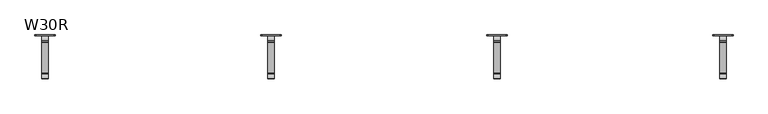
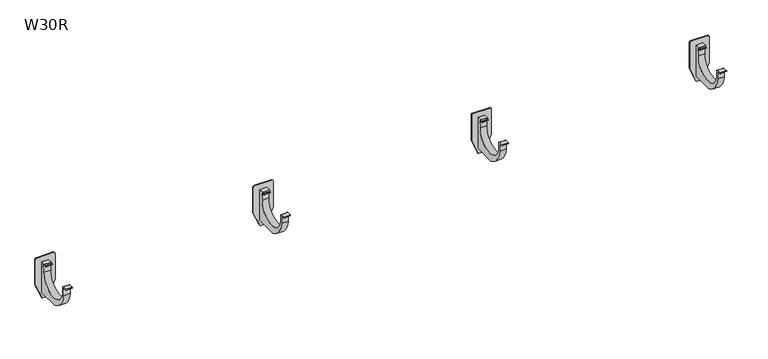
"""IFC4 building model written with IfcOpenShell, lengths in millimetres: proxy geometry, W30R Profil okapowy prosty z rynną : W30R."""

from ifc_helpers import new_model, si_unit, frame, origin, place, context, project, spatial, polyline, circle_curve, source, transform, mapped, element, save
from ifc_brep_helpers import plane_surface, cylinder_surface, revolved_surface, advanced_brep


def w30r_a8886554(model_context):
    return source(origin(), model_context, "Body", "AdvancedBrep", [
        advanced_brep(
        [(4806.4889281, -43.253125, -67.3579557), (4806.4889281, 31.746875, -67.3579557), (4806.4889281, 33.746875, -48.4650699), (4806.4889281, 28.3326614, -49.0508489), (4806.4889281, 26.9184479, -50.4650625), (4806.4889281, 25.5042343, -49.0508489), (4806.4889281, 26.9184479, -47.6366354), (4806.4889281, 29.746875, -46.4650625), (4806.4889281, 39.746875, -46.4650625), (4806.4889281, 39.746875, -121.4650625), (4806.4889281, -11.253125, -121.4654849), (4806.4889281, -45.753125, -76.6748546), (4806.4889281, -45.753125, -62.0548341), (4806.4889281, -45.753125, -58.4654849), (4806.4889281, -54.253125, -58.4654849), (4806.4889281, -54.253125, -56.4654849), (4806.4889281, -44.253125, -56.4654849), (4806.4889281, -43.253125, -57.4654849), (4821.4889281, -43.253125, -67.3579557), (4821.4889281, -43.253125, -57.4654849), (4821.4889281, -44.253125, -56.4654849), (4821.4889281, -54.253125, -56.4654849), (4821.4889281, -54.253125, -58.4654849), (4821.4889281, -45.753125, -58.4654849), (4821.4889281, -45.753125, -62.0548341), (4821.4889281, -45.753125, -76.6748546), (4821.4889281, -11.253125, -121.4654849), (4821.4889281, 39.746875, -121.4650625), (4821.4889281, 39.746875, -46.4650625), (4821.4889281, 29.746875, -46.4650625), (4821.4889281, 26.9184479, -47.6366354), (4821.4889281, 25.5042343, -49.0508489), (4821.4889281, 26.9184479, -50.4650625), (4821.4889281, 28.3326614, -49.0508489), (4821.4889281, 33.746875, -48.4650699), (4821.4889281, 31.746875, -67.3579557), (4833.4889281, 39.746875, -33.4650625), (4794.4889281, 39.746875, -33.4650625), (4791.4889281, 39.746875, -36.4650625), (4791.4889281, 39.746875, -98.4650625), (4805.7196973, 39.746875, -132.6189087), (4808.4889281, 39.746875, -134.4650625), (4819.4889281, 39.746875, -134.4650625), (4822.2581588, 39.746875, -132.6189087), (4836.4889281, 39.746875, -98.4650625), (4836.4889281, 39.746875, -36.4650625), (4833.4889281, 41.746875, -33.4650625), (4836.4889281, 41.746875, -36.4650625), (4836.4889281, 41.746875, -98.4650625), (4822.2581588, 41.746875, -132.6189087), (4819.4889281, 41.746875, -134.4650625), (4808.4889281, 41.746875, -134.4650625), (4805.7196973, 41.746875, -132.6189087), (4791.4889281, 41.746875, -98.4650625), (4791.4889281, 41.746875, -36.4650625), (4794.4889281, 41.746875, -33.4650625)],
        [
            (0, 1, circle_curve(frame((4806.4889281, -5.753125, -67.3579557), z_axis=(1.0, 0.0, 0.0), x_axis=(0.0, -1.0, 0.0)), 37.5)),
            (1, 2),
            (2, 3, circle_curve(frame((4806.4889281, 32.9075381, -66.0213045), z_axis=(1.0, 0.0, 0.0), x_axis=(0.0, -1.0, 0.0)), 17.5762868)),
            (3, 4),
            (4, 5, circle_curve(frame((4806.4889281, 26.2113411, -49.7579557), z_axis=(-1.0, 0.0, 0.0), x_axis=(0.0, -1.0, 0.0)), 1.0)),
            (5, 6),
            (6, 7, circle_curve(frame((4806.4889281, 29.746875, -50.4650625), z_axis=(-1.0, 0.0, 0.0), x_axis=(0.0, -1.0, 0.0)), 4.0)),
            (7, 8),
            (8, 9),
            (9, 10),
            (10, 11, circle_curve(frame((4806.4889281, 6.9272146, -71.7799373), z_axis=(-1.0, 0.0, 0.0), x_axis=(0.0, -1.0, 0.0)), 52.9072622)),
            (11, 12),
            (12, 13),
            (13, 14),
            (14, 15, circle_curve(frame((4806.4889281, -54.253125, -57.4654849), z_axis=(-1.0, 0.0, 0.0), x_axis=(0.0, -1.0, 0.0)), 1.0)),
            (15, 16),
            (16, 17, circle_curve(frame((4806.4889281, -44.253125, -57.4654849), z_axis=(-1.0, 0.0, 0.0), x_axis=(0.0, -1.0, 0.0)), 1.0)),
            (17, 0),
            (18, 19),
            (19, 20, circle_curve(frame((4821.4889281, -44.253125, -57.4654849), z_axis=(1.0, 0.0, 0.0), x_axis=(0.0, -1.0, 0.0)), 1.0)),
            (20, 21),
            (21, 22, circle_curve(frame((4821.4889281, -54.253125, -57.4654849), z_axis=(1.0, 0.0, 0.0), x_axis=(0.0, -1.0, 0.0)), 1.0)),
            (22, 23),
            (23, 24),
            (24, 25),
            (25, 26, circle_curve(frame((4821.4889281, 6.9272146, -71.7799373), z_axis=(1.0, 0.0, 0.0), x_axis=(0.0, -1.0, 0.0)), 52.9072622)),
            (26, 27),
            (27, 28),
            (28, 29),
            (29, 30, circle_curve(frame((4821.4889281, 29.746875, -50.4650625), z_axis=(1.0, 0.0, 0.0), x_axis=(0.0, -1.0, 0.0)), 4.0)),
            (30, 31),
            (31, 32, circle_curve(frame((4821.4889281, 26.2113411, -49.7579557), z_axis=(1.0, 0.0, 0.0), x_axis=(0.0, -1.0, 0.0)), 1.0)),
            (32, 33),
            (33, 34, circle_curve(frame((4821.4889281, 32.9075381, -66.0213045), z_axis=(-1.0, 0.0, 0.0), x_axis=(0.0, -1.0, 0.0)), 17.5762868)),
            (34, 35),
            (35, 18, circle_curve(frame((4821.4889281, -5.753125, -67.3579557), z_axis=(-1.0, 0.0, 0.0), x_axis=(0.0, -1.0, 0.0)), 37.5)),
            (17, 19),
            (18, 0),
            (16, 20),
            (15, 21),
            (14, 22),
            (13, 23),
            (12, 24),
            (11, 25),
            (10, 26),
            (9, 27),
            (7, 29),
            (28, 8),
            (6, 30),
            (5, 31),
            (4, 32),
            (3, 33),
            (2, 34),
            (1, 35),
            (36, 37),
            (37, 38, circle_curve(frame((4794.4889281, 39.746875, -36.4650625), z_axis=(0.0, -1.0, 0.0), x_axis=(1.0, 0.0, 0.0)), 3.0)),
            (38, 39),
            (39, 40),
            (40, 41, circle_curve(frame((4808.4889281, 39.746875, -131.4650625), z_axis=(0.0, -1.0, 0.0), x_axis=(1.0, 0.0, 0.0)), 3.0)),
            (41, 42),
            (42, 43, circle_curve(frame((4819.4889281, 39.746875, -131.4650625), z_axis=(0.0, -1.0, 0.0), x_axis=(1.0, 0.0, 0.0)), 3.0)),
            (43, 44),
            (44, 45),
            (45, 36, circle_curve(frame((4833.4889281, 39.746875, -36.4650625), z_axis=(0.0, -1.0, 0.0), x_axis=(1.0, 0.0, 0.0)), 3.0)),
            (46, 47, circle_curve(frame((4833.4889281, 41.746875, -36.4650625), z_axis=(0.0, 1.0, 0.0), x_axis=(1.0, 0.0, 0.0)), 3.0)),
            (47, 48),
            (48, 49),
            (49, 50, circle_curve(frame((4819.4889281, 41.746875, -131.4650625), z_axis=(0.0, 1.0, 0.0), x_axis=(1.0, 0.0, 0.0)), 3.0)),
            (50, 51),
            (51, 52, circle_curve(frame((4808.4889281, 41.746875, -131.4650625), z_axis=(0.0, 1.0, 0.0), x_axis=(1.0, 0.0, 0.0)), 3.0)),
            (52, 53),
            (53, 54),
            (54, 55, circle_curve(frame((4794.4889281, 41.746875, -36.4650625), z_axis=(0.0, 1.0, 0.0), x_axis=(1.0, 0.0, 0.0)), 3.0)),
            (55, 46),
            (36, 46),
            (55, 37),
            (54, 38),
            (53, 39),
            (52, 40),
            (51, 41),
            (50, 42),
            (49, 43),
            (48, 44),
            (47, 45),
        ],
        [
            plane_surface(frame((4806.4889281, -43.253125, -57.4654849), z_axis=(-1.0, 0.0, 0.0), x_axis=(0.0, 0.0, -1.0))),
            plane_surface(frame((4821.4889281, -43.253125, -57.4654849), z_axis=(1.0, 0.0, 0.0), x_axis=(0.0, 0.0, 1.0))),
            plane_surface(frame((4821.4889281, -43.253125, -67.3579557), z_axis=(0.0, 1.0, 0.0), x_axis=(-1.0, 0.0, 0.0))),
            cylinder_surface(frame((4806.4889281, -44.253125, -57.4654849), z_axis=(1.0, 0.0, 0.0), x_axis=(0.0, -1.0, 0.0)), 1.0),
            plane_surface(frame((4821.4889281, -44.253125, -56.4654849), z_axis=(0.0, 0.0, 1.0), x_axis=(-1.0, 0.0, 0.0))),
            cylinder_surface(frame((4806.4889281, -54.253125, -57.4654849), z_axis=(1.0, 0.0, 0.0), x_axis=(0.0, -1.0, 0.0)), 1.0),
            plane_surface(frame((4821.4889281, -54.253125, -58.4654849), z_axis=(0.0, 0.0, -1.0), x_axis=(-1.0, 0.0, 0.0))),
            plane_surface(frame((4821.4889281, -45.753125, -58.4654849), z_axis=(0.0, -1.0, 0.0), x_axis=(-1.0, 0.0, 0.0))),
            plane_surface(frame((4821.4889281, -45.753125, -62.0548341), z_axis=(0.0, -1.0, 0.0), x_axis=(-1.0, 0.0, 0.0))),
            cylinder_surface(frame((4806.4889281, 6.9272146, -71.7799373), z_axis=(1.0, 0.0, 0.0), x_axis=(0.0, -1.0, 0.0)), 52.9072622),
            plane_surface(frame((4821.4889281, -11.253125, -121.4654849), z_axis=(0.0, 8.283194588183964e-06, -0.9999999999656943), x_axis=(-1.0, 0.0, 0.0))),
            plane_surface(frame((4821.4889281, 40.7901639, -46.4650625), z_axis=(0.0, 0.0, 1.0), x_axis=(-1.0, 0.0, 0.0))),
            cylinder_surface(frame((4806.4889281, 29.746875, -50.4650625), z_axis=(1.0, 0.0, 0.0), x_axis=(0.0, -1.0, 0.0)), 4.0),
            plane_surface(frame((4821.4889281, 26.9184479, -47.6366354), z_axis=(0.0, -0.7071067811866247, 0.7071067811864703), x_axis=(-1.0, 0.0, 0.0))),
            cylinder_surface(frame((4806.4889281, 26.2113411, -49.7579557), z_axis=(1.0, 0.0, 0.0), x_axis=(0.0, -1.0, 0.0)), 1.0),
            plane_surface(frame((4821.4889281, 26.9184479, -50.4650625), z_axis=(0.0, 0.7071067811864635, -0.7071067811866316), x_axis=(-1.0, 0.0, 0.0))),
            revolved_surface(polyline([(4806.4889281, 15.331251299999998, -66.0213045), (4821.4889281, 15.331251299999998, -66.0213045)]), (4806.4889281, 32.9075381, -66.0213045), (-1.0, 0.0, 0.0)),
            plane_surface(frame((4821.4889281, 33.746875, -48.4650699), z_axis=(0.0, -0.9944434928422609, 0.10527174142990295), x_axis=(-1.0, 0.0, 0.0))),
            revolved_surface(polyline([(4806.4889281, -43.253125, -67.3579557), (4821.4889281, -43.253125, -67.3579557)]), (4806.4889281, -5.753125, -67.3579557), (-1.0, 0.0, 0.0)),
            plane_surface(frame((4794.4889281, 39.746875, -33.4650625), z_axis=(0.0, -1.0, 0.0), x_axis=(-1.0, 0.0, 0.0))),
            plane_surface(frame((4794.4889281, 41.746875, -33.4650625), z_axis=(0.0, 1.0, 0.0), x_axis=(1.0, 0.0, 0.0))),
            plane_surface(frame((4833.4889281, 39.746875, -33.4650625), z_axis=(0.0, 0.0, 1.0), x_axis=(0.0, 1.0, 0.0))),
            cylinder_surface(frame((4794.4889281, 41.746875, -36.4650625), z_axis=(0.0, -1.0, 0.0), x_axis=(1.0, 0.0, 0.0)), 3.0),
            plane_surface(frame((4791.4889281, 39.746875, -36.4650625), z_axis=(-1.0, 0.0, 0.0), x_axis=(0.0, 1.0, 0.0))),
            plane_surface(frame((4791.4889281, 39.746875, -98.4650625), z_axis=(-0.9230769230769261, 0.0, -0.38461538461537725), x_axis=(0.0, 1.0, 0.0))),
            cylinder_surface(frame((4808.4889281, 41.746875, -131.4650625), z_axis=(0.0, -1.0, 0.0), x_axis=(1.0, 0.0, 0.0)), 3.0),
            plane_surface(frame((4808.4889281, 39.746875, -134.4650625), z_axis=(0.0, 0.0, -1.0), x_axis=(0.0, 1.0, 0.0))),
            cylinder_surface(frame((4819.4889281, 41.746875, -131.4650625), z_axis=(0.0, -1.0, 0.0), x_axis=(1.0, 0.0, 0.0)), 3.0),
            plane_surface(frame((4822.2581588, 39.746875, -132.6189087), z_axis=(0.9230769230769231, 0.0, -0.3846153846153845), x_axis=(0.0, 1.0, 0.0))),
            plane_surface(frame((4836.4889281, 39.746875, -98.4650625), z_axis=(1.0, 0.0, 0.0), x_axis=(0.0, 1.0, 0.0))),
            cylinder_surface(frame((4833.4889281, 41.746875, -36.4650625), z_axis=(0.0, -1.0, 0.0), x_axis=(1.0, 0.0, 0.0)), 3.0),
        ],
        [
            (0, [[1, 2, 3, 4, 5, 6, 7, 8, 9, 10, 11, 12, 13, 14, 15, 16, 17, 18]]),
            (1, [[19, 20, 21, 22, 23, 24, 25, 26, 27, 28, 29, 30, 31, 32, 33, 34, 35, 36]]),
            (2, [[-18, 37, -19, 38]]),
            (3, [[-17, 39, -20, -37]]),
            (4, [[-16, 40, -21, -39]]),
            (5, [[-15, 41, -22, -40]]),
            (6, [[-14, 42, -23, -41]]),
            (7, [[-13, 43, -24, -42]]),
            (8, [[-12, 44, -25, -43]]),
            (9, [[-11, 45, -26, -44]]),
            (10, [[-45, -10, 46, -27]]),
            (11, [[47, -29, 48, -8]]),
            (12, [[-7, 49, -30, -47]]),
            (13, [[-6, 50, -31, -49]]),
            (14, [[-5, 51, -32, -50]]),
            (15, [[-4, 52, -33, -51]]),
            (16, [[-3, 53, -34, -52]]),
            (17, [[-2, 54, -35, -53]]),
            (18, [[-1, -38, -36, -54]]),
            (19, [[55, 56, 57, 58, 59, 60, 61, 62, 63, 64], [-9, -48, -28, -46]]),
            (20, [[65, 66, 67, 68, 69, 70, 71, 72, 73, 74]]),
            (21, [[-55, 75, -74, 76]]),
            (22, [[-56, -76, -73, 77]]),
            (23, [[-57, -77, -72, 78]]),
            (24, [[-58, -78, -71, 79]]),
            (25, [[-59, -79, -70, 80]]),
            (26, [[-60, -80, -69, 81]]),
            (27, [[-61, -81, -68, 82]]),
            (28, [[-62, -82, -67, 83]]),
            (29, [[-63, -83, -66, 84]]),
            (30, [[-64, -84, -65, -75]]),
        ],
    ),
        advanced_brep(
        [(4306.4889281, -43.253125, -67.3579557), (4306.4889281, 31.746875, -67.3579557), (4306.4889281, 33.746875, -48.4650699), (4306.4889281, 28.3326614, -49.0508489), (4306.4889281, 26.9184479, -50.4650625), (4306.4889281, 25.5042343, -49.0508489), (4306.4889281, 26.9184479, -47.6366354), (4306.4889281, 29.746875, -46.4650625), (4306.4889281, 39.746875, -46.4650625), (4306.4889281, 39.746875, -121.4650625), (4306.4889281, -11.253125, -121.4654849), (4306.4889281, -45.753125, -76.6748546), (4306.4889281, -45.753125, -62.0548341), (4306.4889281, -45.753125, -58.4654849), (4306.4889281, -54.253125, -58.4654849), (4306.4889281, -54.253125, -56.4654849), (4306.4889281, -44.253125, -56.4654849), (4306.4889281, -43.253125, -57.4654849), (4321.4889281, -43.253125, -67.3579557), (4321.4889281, -43.253125, -57.4654849), (4321.4889281, -44.253125, -56.4654849), (4321.4889281, -54.253125, -56.4654849), (4321.4889281, -54.253125, -58.4654849), (4321.4889281, -45.753125, -58.4654849), (4321.4889281, -45.753125, -62.0548341), (4321.4889281, -45.753125, -76.6748546), (4321.4889281, -11.253125, -121.4654849), (4321.4889281, 39.746875, -121.4650625), (4321.4889281, 39.746875, -46.4650625), (4321.4889281, 29.746875, -46.4650625), (4321.4889281, 26.9184479, -47.6366354), (4321.4889281, 25.5042343, -49.0508489), (4321.4889281, 26.9184479, -50.4650625), (4321.4889281, 28.3326614, -49.0508489), (4321.4889281, 33.746875, -48.4650699), (4321.4889281, 31.746875, -67.3579557), (4333.4889281, 39.746875, -33.4650625), (4294.4889281, 39.746875, -33.4650625), (4291.4889281, 39.746875, -36.4650625), (4291.4889281, 39.746875, -98.4650625), (4305.7196973, 39.746875, -132.6189087), (4308.4889281, 39.746875, -134.4650625), (4319.4889281, 39.746875, -134.4650625), (4322.2581588, 39.746875, -132.6189087), (4336.4889281, 39.746875, -98.4650625), (4336.4889281, 39.746875, -36.4650625), (4333.4889281, 41.746875, -33.4650625), (4336.4889281, 41.746875, -36.4650625), (4336.4889281, 41.746875, -98.4650625), (4322.2581588, 41.746875, -132.6189087), (4319.4889281, 41.746875, -134.4650625), (4308.4889281, 41.746875, -134.4650625), (4305.7196973, 41.746875, -132.6189087), (4291.4889281, 41.746875, -98.4650625), (4291.4889281, 41.746875, -36.4650625), (4294.4889281, 41.746875, -33.4650625)],
        [
            (0, 1, circle_curve(frame((4306.4889281, -5.753125, -67.3579557), z_axis=(1.0, 0.0, 0.0), x_axis=(0.0, -1.0, 0.0)), 37.5)),
            (1, 2),
            (2, 3, circle_curve(frame((4306.4889281, 32.9075381, -66.0213045), z_axis=(1.0, 0.0, 0.0), x_axis=(0.0, -1.0, 0.0)), 17.5762868)),
            (3, 4),
            (4, 5, circle_curve(frame((4306.4889281, 26.2113411, -49.7579557), z_axis=(-1.0, 0.0, 0.0), x_axis=(0.0, -1.0, 0.0)), 1.0)),
            (5, 6),
            (6, 7, circle_curve(frame((4306.4889281, 29.746875, -50.4650625), z_axis=(-1.0, 0.0, 0.0), x_axis=(0.0, -1.0, 0.0)), 4.0)),
            (7, 8),
            (8, 9),
            (9, 10),
            (10, 11, circle_curve(frame((4306.4889281, 6.9272146, -71.7799373), z_axis=(-1.0, 0.0, 0.0), x_axis=(0.0, -1.0, 0.0)), 52.9072622)),
            (11, 12),
            (12, 13),
            (13, 14),
            (14, 15, circle_curve(frame((4306.4889281, -54.253125, -57.4654849), z_axis=(-1.0, 0.0, 0.0), x_axis=(0.0, -1.0, 0.0)), 1.0)),
            (15, 16),
            (16, 17, circle_curve(frame((4306.4889281, -44.253125, -57.4654849), z_axis=(-1.0, 0.0, 0.0), x_axis=(0.0, -1.0, 0.0)), 1.0)),
            (17, 0),
            (18, 19),
            (19, 20, circle_curve(frame((4321.4889281, -44.253125, -57.4654849), z_axis=(1.0, 0.0, 0.0), x_axis=(0.0, -1.0, 0.0)), 1.0)),
            (20, 21),
            (21, 22, circle_curve(frame((4321.4889281, -54.253125, -57.4654849), z_axis=(1.0, 0.0, 0.0), x_axis=(0.0, -1.0, 0.0)), 1.0)),
            (22, 23),
            (23, 24),
            (24, 25),
            (25, 26, circle_curve(frame((4321.4889281, 6.9272146, -71.7799373), z_axis=(1.0, 0.0, 0.0), x_axis=(0.0, -1.0, 0.0)), 52.9072622)),
            (26, 27),
            (27, 28),
            (28, 29),
            (29, 30, circle_curve(frame((4321.4889281, 29.746875, -50.4650625), z_axis=(1.0, 0.0, 0.0), x_axis=(0.0, -1.0, 0.0)), 4.0)),
            (30, 31),
            (31, 32, circle_curve(frame((4321.4889281, 26.2113411, -49.7579557), z_axis=(1.0, 0.0, 0.0), x_axis=(0.0, -1.0, 0.0)), 1.0)),
            (32, 33),
            (33, 34, circle_curve(frame((4321.4889281, 32.9075381, -66.0213045), z_axis=(-1.0, 0.0, 0.0), x_axis=(0.0, -1.0, 0.0)), 17.5762868)),
            (34, 35),
            (35, 18, circle_curve(frame((4321.4889281, -5.753125, -67.3579557), z_axis=(-1.0, 0.0, 0.0), x_axis=(0.0, -1.0, 0.0)), 37.5)),
            (17, 19),
            (18, 0),
            (16, 20),
            (15, 21),
            (14, 22),
            (13, 23),
            (12, 24),
            (11, 25),
            (10, 26),
            (9, 27),
            (7, 29),
            (28, 8),
            (6, 30),
            (5, 31),
            (4, 32),
            (3, 33),
            (2, 34),
            (1, 35),
            (36, 37),
            (37, 38, circle_curve(frame((4294.4889281, 39.746875, -36.4650625), z_axis=(0.0, -1.0, 0.0), x_axis=(1.0, 0.0, 0.0)), 3.0)),
            (38, 39),
            (39, 40),
            (40, 41, circle_curve(frame((4308.4889281, 39.746875, -131.4650625), z_axis=(0.0, -1.0, 0.0), x_axis=(1.0, 0.0, 0.0)), 3.0)),
            (41, 42),
            (42, 43, circle_curve(frame((4319.4889281, 39.746875, -131.4650625), z_axis=(0.0, -1.0, 0.0), x_axis=(1.0, 0.0, 0.0)), 3.0)),
            (43, 44),
            (44, 45),
            (45, 36, circle_curve(frame((4333.4889281, 39.746875, -36.4650625), z_axis=(0.0, -1.0, 0.0), x_axis=(1.0, 0.0, 0.0)), 3.0)),
            (46, 47, circle_curve(frame((4333.4889281, 41.746875, -36.4650625), z_axis=(0.0, 1.0, 0.0), x_axis=(1.0, 0.0, 0.0)), 3.0)),
            (47, 48),
            (48, 49),
            (49, 50, circle_curve(frame((4319.4889281, 41.746875, -131.4650625), z_axis=(0.0, 1.0, 0.0), x_axis=(1.0, 0.0, 0.0)), 3.0)),
            (50, 51),
            (51, 52, circle_curve(frame((4308.4889281, 41.746875, -131.4650625), z_axis=(0.0, 1.0, 0.0), x_axis=(1.0, 0.0, 0.0)), 3.0)),
            (52, 53),
            (53, 54),
            (54, 55, circle_curve(frame((4294.4889281, 41.746875, -36.4650625), z_axis=(0.0, 1.0, 0.0), x_axis=(1.0, 0.0, 0.0)), 3.0)),
            (55, 46),
            (36, 46),
            (55, 37),
            (54, 38),
            (53, 39),
            (52, 40),
            (51, 41),
            (50, 42),
            (49, 43),
            (48, 44),
            (47, 45),
        ],
        [
            plane_surface(frame((4306.4889281, -43.253125, -57.4654849), z_axis=(-1.0, 0.0, 0.0), x_axis=(0.0, 0.0, -1.0))),
            plane_surface(frame((4321.4889281, -43.253125, -57.4654849), z_axis=(1.0, 0.0, 0.0), x_axis=(0.0, 0.0, 1.0))),
            plane_surface(frame((4321.4889281, -43.253125, -67.3579557), z_axis=(0.0, 1.0, 0.0), x_axis=(-1.0, 0.0, 0.0))),
            cylinder_surface(frame((4306.4889281, -44.253125, -57.4654849), z_axis=(1.0, 0.0, 0.0), x_axis=(0.0, -1.0, 0.0)), 1.0),
            plane_surface(frame((4321.4889281, -44.253125, -56.4654849), z_axis=(0.0, 0.0, 1.0), x_axis=(-1.0, 0.0, 0.0))),
            cylinder_surface(frame((4306.4889281, -54.253125, -57.4654849), z_axis=(1.0, 0.0, 0.0), x_axis=(0.0, -1.0, 0.0)), 1.0),
            plane_surface(frame((4321.4889281, -54.253125, -58.4654849), z_axis=(0.0, 0.0, -1.0), x_axis=(-1.0, 0.0, 0.0))),
            plane_surface(frame((4321.4889281, -45.753125, -58.4654849), z_axis=(0.0, -1.0, 0.0), x_axis=(-1.0, 0.0, 0.0))),
            plane_surface(frame((4321.4889281, -45.753125, -62.0548341), z_axis=(0.0, -1.0, 0.0), x_axis=(-1.0, 0.0, 0.0))),
            cylinder_surface(frame((4306.4889281, 6.9272146, -71.7799373), z_axis=(1.0, 0.0, 0.0), x_axis=(0.0, -1.0, 0.0)), 52.9072622),
            plane_surface(frame((4321.4889281, -11.253125, -121.4654849), z_axis=(0.0, 8.283194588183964e-06, -0.9999999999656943), x_axis=(-1.0, 0.0, 0.0))),
            plane_surface(frame((4321.4889281, 40.7901639, -46.4650625), z_axis=(0.0, 0.0, 1.0), x_axis=(-1.0, 0.0, 0.0))),
            cylinder_surface(frame((4306.4889281, 29.746875, -50.4650625), z_axis=(1.0, 0.0, 0.0), x_axis=(0.0, -1.0, 0.0)), 4.0),
            plane_surface(frame((4321.4889281, 26.9184479, -47.6366354), z_axis=(0.0, -0.7071067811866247, 0.7071067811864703), x_axis=(-1.0, 0.0, 0.0))),
            cylinder_surface(frame((4306.4889281, 26.2113411, -49.7579557), z_axis=(1.0, 0.0, 0.0), x_axis=(0.0, -1.0, 0.0)), 1.0),
            plane_surface(frame((4321.4889281, 26.9184479, -50.4650625), z_axis=(0.0, 0.7071067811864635, -0.7071067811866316), x_axis=(-1.0, 0.0, 0.0))),
            revolved_surface(polyline([(4306.4889281, 15.331251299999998, -66.0213045), (4321.4889281, 15.331251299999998, -66.0213045)]), (4306.4889281, 32.9075381, -66.0213045), (-1.0, 0.0, 0.0)),
            plane_surface(frame((4321.4889281, 33.746875, -48.4650699), z_axis=(0.0, -0.9944434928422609, 0.10527174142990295), x_axis=(-1.0, 0.0, 0.0))),
            revolved_surface(polyline([(4306.4889281, -43.253125, -67.3579557), (4321.4889281, -43.253125, -67.3579557)]), (4306.4889281, -5.753125, -67.3579557), (-1.0, 0.0, 0.0)),
            plane_surface(frame((4294.4889281, 39.746875, -33.4650625), z_axis=(0.0, -1.0, 0.0), x_axis=(-1.0, 0.0, 0.0))),
            plane_surface(frame((4294.4889281, 41.746875, -33.4650625), z_axis=(0.0, 1.0, 0.0), x_axis=(1.0, 0.0, 0.0))),
            plane_surface(frame((4333.4889281, 39.746875, -33.4650625), z_axis=(0.0, 0.0, 1.0), x_axis=(0.0, 1.0, 0.0))),
            cylinder_surface(frame((4294.4889281, 41.746875, -36.4650625), z_axis=(0.0, -1.0, 0.0), x_axis=(1.0, 0.0, 0.0)), 3.0),
            plane_surface(frame((4291.4889281, 39.746875, -36.4650625), z_axis=(-1.0, 0.0, 0.0), x_axis=(0.0, 1.0, 0.0))),
            plane_surface(frame((4291.4889281, 39.746875, -98.4650625), z_axis=(-0.9230769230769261, 0.0, -0.38461538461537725), x_axis=(0.0, 1.0, 0.0))),
            cylinder_surface(frame((4308.4889281, 41.746875, -131.4650625), z_axis=(0.0, -1.0, 0.0), x_axis=(1.0, 0.0, 0.0)), 3.0),
            plane_surface(frame((4308.4889281, 39.746875, -134.4650625), z_axis=(0.0, 0.0, -1.0), x_axis=(0.0, 1.0, 0.0))),
            cylinder_surface(frame((4319.4889281, 41.746875, -131.4650625), z_axis=(0.0, -1.0, 0.0), x_axis=(1.0, 0.0, 0.0)), 3.0),
            plane_surface(frame((4322.2581588, 39.746875, -132.6189087), z_axis=(0.9230769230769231, 0.0, -0.3846153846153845), x_axis=(0.0, 1.0, 0.0))),
            plane_surface(frame((4336.4889281, 39.746875, -98.4650625), z_axis=(1.0, 0.0, 0.0), x_axis=(0.0, 1.0, 0.0))),
            cylinder_surface(frame((4333.4889281, 41.746875, -36.4650625), z_axis=(0.0, -1.0, 0.0), x_axis=(1.0, 0.0, 0.0)), 3.0),
        ],
        [
            (0, [[1, 2, 3, 4, 5, 6, 7, 8, 9, 10, 11, 12, 13, 14, 15, 16, 17, 18]]),
            (1, [[19, 20, 21, 22, 23, 24, 25, 26, 27, 28, 29, 30, 31, 32, 33, 34, 35, 36]]),
            (2, [[-18, 37, -19, 38]]),
            (3, [[-17, 39, -20, -37]]),
            (4, [[-16, 40, -21, -39]]),
            (5, [[-15, 41, -22, -40]]),
            (6, [[-14, 42, -23, -41]]),
            (7, [[-13, 43, -24, -42]]),
            (8, [[-12, 44, -25, -43]]),
            (9, [[-11, 45, -26, -44]]),
            (10, [[-45, -10, 46, -27]]),
            (11, [[47, -29, 48, -8]]),
            (12, [[-7, 49, -30, -47]]),
            (13, [[-6, 50, -31, -49]]),
            (14, [[-5, 51, -32, -50]]),
            (15, [[-4, 52, -33, -51]]),
            (16, [[-3, 53, -34, -52]]),
            (17, [[-2, 54, -35, -53]]),
            (18, [[-1, -38, -36, -54]]),
            (19, [[55, 56, 57, 58, 59, 60, 61, 62, 63, 64], [-9, -48, -28, -46]]),
            (20, [[65, 66, 67, 68, 69, 70, 71, 72, 73, 74]]),
            (21, [[-55, 75, -74, 76]]),
            (22, [[-56, -76, -73, 77]]),
            (23, [[-57, -77, -72, 78]]),
            (24, [[-58, -78, -71, 79]]),
            (25, [[-59, -79, -70, 80]]),
            (26, [[-60, -80, -69, 81]]),
            (27, [[-61, -81, -68, 82]]),
            (28, [[-62, -82, -67, 83]]),
            (29, [[-63, -83, -66, 84]]),
            (30, [[-64, -84, -65, -75]]),
        ],
    ),
        advanced_brep(
        [(3806.4889281, -43.253125, -67.3579557), (3806.4889281, 31.746875, -67.3579557), (3806.4889281, 33.746875, -48.4650699), (3806.4889281, 28.3326614, -49.0508489), (3806.4889281, 26.9184479, -50.4650625), (3806.4889281, 25.5042343, -49.0508489), (3806.4889281, 26.9184479, -47.6366354), (3806.4889281, 29.746875, -46.4650625), (3806.4889281, 39.746875, -46.4650625), (3806.4889281, 39.746875, -121.4650625), (3806.4889281, -11.253125, -121.4654849), (3806.4889281, -45.753125, -76.6748546), (3806.4889281, -45.753125, -62.0548341), (3806.4889281, -45.753125, -58.4654849), (3806.4889281, -54.253125, -58.4654849), (3806.4889281, -54.253125, -56.4654849), (3806.4889281, -44.253125, -56.4654849), (3806.4889281, -43.253125, -57.4654849), (3821.4889281, -43.253125, -67.3579557), (3821.4889281, -43.253125, -57.4654849), (3821.4889281, -44.253125, -56.4654849), (3821.4889281, -54.253125, -56.4654849), (3821.4889281, -54.253125, -58.4654849), (3821.4889281, -45.753125, -58.4654849), (3821.4889281, -45.753125, -62.0548341), (3821.4889281, -45.753125, -76.6748546), (3821.4889281, -11.253125, -121.4654849), (3821.4889281, 39.746875, -121.4650625), (3821.4889281, 39.746875, -46.4650625), (3821.4889281, 29.746875, -46.4650625), (3821.4889281, 26.9184479, -47.6366354), (3821.4889281, 25.5042343, -49.0508489), (3821.4889281, 26.9184479, -50.4650625), (3821.4889281, 28.3326614, -49.0508489), (3821.4889281, 33.746875, -48.4650699), (3821.4889281, 31.746875, -67.3579557), (3833.4889281, 39.746875, -33.4650625), (3794.4889281, 39.746875, -33.4650625), (3791.4889281, 39.746875, -36.4650625), (3791.4889281, 39.746875, -98.4650625), (3805.7196973, 39.746875, -132.6189087), (3808.4889281, 39.746875, -134.4650625), (3819.4889281, 39.746875, -134.4650625), (3822.2581588, 39.746875, -132.6189087), (3836.4889281, 39.746875, -98.4650625), (3836.4889281, 39.746875, -36.4650625), (3833.4889281, 41.746875, -33.4650625), (3836.4889281, 41.746875, -36.4650625), (3836.4889281, 41.746875, -98.4650625), (3822.2581588, 41.746875, -132.6189087), (3819.4889281, 41.746875, -134.4650625), (3808.4889281, 41.746875, -134.4650625), (3805.7196973, 41.746875, -132.6189087), (3791.4889281, 41.746875, -98.4650625), (3791.4889281, 41.746875, -36.4650625), (3794.4889281, 41.746875, -33.4650625)],
        [
            (0, 1, circle_curve(frame((3806.4889281, -5.753125, -67.3579557), z_axis=(1.0, 0.0, 0.0), x_axis=(0.0, -1.0, 0.0)), 37.5)),
            (1, 2),
            (2, 3, circle_curve(frame((3806.4889281, 32.9075381, -66.0213045), z_axis=(1.0, 0.0, 0.0), x_axis=(0.0, -1.0, 0.0)), 17.5762868)),
            (3, 4),
            (4, 5, circle_curve(frame((3806.4889281, 26.2113411, -49.7579557), z_axis=(-1.0, 0.0, 0.0), x_axis=(0.0, -1.0, 0.0)), 1.0)),
            (5, 6),
            (6, 7, circle_curve(frame((3806.4889281, 29.746875, -50.4650625), z_axis=(-1.0, 0.0, 0.0), x_axis=(0.0, -1.0, 0.0)), 4.0)),
            (7, 8),
            (8, 9),
            (9, 10),
            (10, 11, circle_curve(frame((3806.4889281, 6.9272146, -71.7799373), z_axis=(-1.0, 0.0, 0.0), x_axis=(0.0, -1.0, 0.0)), 52.9072622)),
            (11, 12),
            (12, 13),
            (13, 14),
            (14, 15, circle_curve(frame((3806.4889281, -54.253125, -57.4654849), z_axis=(-1.0, 0.0, 0.0), x_axis=(0.0, -1.0, 0.0)), 1.0)),
            (15, 16),
            (16, 17, circle_curve(frame((3806.4889281, -44.253125, -57.4654849), z_axis=(-1.0, 0.0, 0.0), x_axis=(0.0, -1.0, 0.0)), 1.0)),
            (17, 0),
            (18, 19),
            (19, 20, circle_curve(frame((3821.4889281, -44.253125, -57.4654849), z_axis=(1.0, 0.0, 0.0), x_axis=(0.0, -1.0, 0.0)), 1.0)),
            (20, 21),
            (21, 22, circle_curve(frame((3821.4889281, -54.253125, -57.4654849), z_axis=(1.0, 0.0, 0.0), x_axis=(0.0, -1.0, 0.0)), 1.0)),
            (22, 23),
            (23, 24),
            (24, 25),
            (25, 26, circle_curve(frame((3821.4889281, 6.9272146, -71.7799373), z_axis=(1.0, 0.0, 0.0), x_axis=(0.0, -1.0, 0.0)), 52.9072622)),
            (26, 27),
            (27, 28),
            (28, 29),
            (29, 30, circle_curve(frame((3821.4889281, 29.746875, -50.4650625), z_axis=(1.0, 0.0, 0.0), x_axis=(0.0, -1.0, 0.0)), 4.0)),
            (30, 31),
            (31, 32, circle_curve(frame((3821.4889281, 26.2113411, -49.7579557), z_axis=(1.0, 0.0, 0.0), x_axis=(0.0, -1.0, 0.0)), 1.0)),
            (32, 33),
            (33, 34, circle_curve(frame((3821.4889281, 32.9075381, -66.0213045), z_axis=(-1.0, 0.0, 0.0), x_axis=(0.0, -1.0, 0.0)), 17.5762868)),
            (34, 35),
            (35, 18, circle_curve(frame((3821.4889281, -5.753125, -67.3579557), z_axis=(-1.0, 0.0, 0.0), x_axis=(0.0, -1.0, 0.0)), 37.5)),
            (17, 19),
            (18, 0),
            (16, 20),
            (15, 21),
            (14, 22),
            (13, 23),
            (12, 24),
            (11, 25),
            (10, 26),
            (9, 27),
            (7, 29),
            (28, 8),
            (6, 30),
            (5, 31),
            (4, 32),
            (3, 33),
            (2, 34),
            (1, 35),
            (36, 37),
            (37, 38, circle_curve(frame((3794.4889281, 39.746875, -36.4650625), z_axis=(0.0, -1.0, 0.0), x_axis=(1.0, 0.0, 0.0)), 3.0)),
            (38, 39),
            (39, 40),
            (40, 41, circle_curve(frame((3808.4889281, 39.746875, -131.4650625), z_axis=(0.0, -1.0, 0.0), x_axis=(1.0, 0.0, 0.0)), 3.0)),
            (41, 42),
            (42, 43, circle_curve(frame((3819.4889281, 39.746875, -131.4650625), z_axis=(0.0, -1.0, 0.0), x_axis=(1.0, 0.0, 0.0)), 3.0)),
            (43, 44),
            (44, 45),
            (45, 36, circle_curve(frame((3833.4889281, 39.746875, -36.4650625), z_axis=(0.0, -1.0, 0.0), x_axis=(1.0, 0.0, 0.0)), 3.0)),
            (46, 47, circle_curve(frame((3833.4889281, 41.746875, -36.4650625), z_axis=(0.0, 1.0, 0.0), x_axis=(1.0, 0.0, 0.0)), 3.0)),
            (47, 48),
            (48, 49),
            (49, 50, circle_curve(frame((3819.4889281, 41.746875, -131.4650625), z_axis=(0.0, 1.0, 0.0), x_axis=(1.0, 0.0, 0.0)), 3.0)),
            (50, 51),
            (51, 52, circle_curve(frame((3808.4889281, 41.746875, -131.4650625), z_axis=(0.0, 1.0, 0.0), x_axis=(1.0, 0.0, 0.0)), 3.0)),
            (52, 53),
            (53, 54),
            (54, 55, circle_curve(frame((3794.4889281, 41.746875, -36.4650625), z_axis=(0.0, 1.0, 0.0), x_axis=(1.0, 0.0, 0.0)), 3.0)),
            (55, 46),
            (36, 46),
            (55, 37),
            (54, 38),
            (53, 39),
            (52, 40),
            (51, 41),
            (50, 42),
            (49, 43),
            (48, 44),
            (47, 45),
        ],
        [
            plane_surface(frame((3806.4889281, -43.253125, -57.4654849), z_axis=(-1.0, 0.0, 0.0), x_axis=(0.0, 0.0, -1.0))),
            plane_surface(frame((3821.4889281, -43.253125, -57.4654849), z_axis=(1.0, 0.0, 0.0), x_axis=(0.0, 0.0, 1.0))),
            plane_surface(frame((3821.4889281, -43.253125, -67.3579557), z_axis=(0.0, 1.0, 0.0), x_axis=(-1.0, 0.0, 0.0))),
            cylinder_surface(frame((3806.4889281, -44.253125, -57.4654849), z_axis=(1.0, 0.0, 0.0), x_axis=(0.0, -1.0, 0.0)), 1.0),
            plane_surface(frame((3821.4889281, -44.253125, -56.4654849), z_axis=(0.0, 0.0, 1.0), x_axis=(-1.0, 0.0, 0.0))),
            cylinder_surface(frame((3806.4889281, -54.253125, -57.4654849), z_axis=(1.0, 0.0, 0.0), x_axis=(0.0, -1.0, 0.0)), 1.0),
            plane_surface(frame((3821.4889281, -54.253125, -58.4654849), z_axis=(0.0, 0.0, -1.0), x_axis=(-1.0, 0.0, 0.0))),
            plane_surface(frame((3821.4889281, -45.753125, -58.4654849), z_axis=(0.0, -1.0, 0.0), x_axis=(-1.0, 0.0, 0.0))),
            plane_surface(frame((3821.4889281, -45.753125, -62.0548341), z_axis=(0.0, -1.0, 0.0), x_axis=(-1.0, 0.0, 0.0))),
            cylinder_surface(frame((3806.4889281, 6.9272146, -71.7799373), z_axis=(1.0, 0.0, 0.0), x_axis=(0.0, -1.0, 0.0)), 52.9072622),
            plane_surface(frame((3821.4889281, -11.253125, -121.4654849), z_axis=(0.0, 8.283194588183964e-06, -0.9999999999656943), x_axis=(-1.0, 0.0, 0.0))),
            plane_surface(frame((3821.4889281, 40.7901639, -46.4650625), z_axis=(0.0, 0.0, 1.0), x_axis=(-1.0, 0.0, 0.0))),
            cylinder_surface(frame((3806.4889281, 29.746875, -50.4650625), z_axis=(1.0, 0.0, 0.0), x_axis=(0.0, -1.0, 0.0)), 4.0),
            plane_surface(frame((3821.4889281, 26.9184479, -47.6366354), z_axis=(0.0, -0.7071067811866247, 0.7071067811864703), x_axis=(-1.0, 0.0, 0.0))),
            cylinder_surface(frame((3806.4889281, 26.2113411, -49.7579557), z_axis=(1.0, 0.0, 0.0), x_axis=(0.0, -1.0, 0.0)), 1.0),
            plane_surface(frame((3821.4889281, 26.9184479, -50.4650625), z_axis=(0.0, 0.7071067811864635, -0.7071067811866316), x_axis=(-1.0, 0.0, 0.0))),
            revolved_surface(polyline([(3806.4889281, 15.331251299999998, -66.0213045), (3821.4889281, 15.331251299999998, -66.0213045)]), (3806.4889281, 32.9075381, -66.0213045), (-1.0, 0.0, 0.0)),
            plane_surface(frame((3821.4889281, 33.746875, -48.4650699), z_axis=(0.0, -0.9944434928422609, 0.10527174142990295), x_axis=(-1.0, 0.0, 0.0))),
            revolved_surface(polyline([(3806.4889281, -43.253125, -67.3579557), (3821.4889281, -43.253125, -67.3579557)]), (3806.4889281, -5.753125, -67.3579557), (-1.0, 0.0, 0.0)),
            plane_surface(frame((3794.4889281, 39.746875, -33.4650625), z_axis=(0.0, -1.0, 0.0), x_axis=(-1.0, 0.0, 0.0))),
            plane_surface(frame((3794.4889281, 41.746875, -33.4650625), z_axis=(0.0, 1.0, 0.0), x_axis=(1.0, 0.0, 0.0))),
            plane_surface(frame((3833.4889281, 39.746875, -33.4650625), z_axis=(0.0, 0.0, 1.0), x_axis=(0.0, 1.0, 0.0))),
            cylinder_surface(frame((3794.4889281, 41.746875, -36.4650625), z_axis=(0.0, -1.0, 0.0), x_axis=(1.0, 0.0, 0.0)), 3.0),
            plane_surface(frame((3791.4889281, 39.746875, -36.4650625), z_axis=(-1.0, 0.0, 0.0), x_axis=(0.0, 1.0, 0.0))),
            plane_surface(frame((3791.4889281, 39.746875, -98.4650625), z_axis=(-0.9230769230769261, 0.0, -0.38461538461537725), x_axis=(0.0, 1.0, 0.0))),
            cylinder_surface(frame((3808.4889281, 41.746875, -131.4650625), z_axis=(0.0, -1.0, 0.0), x_axis=(1.0, 0.0, 0.0)), 3.0),
            plane_surface(frame((3808.4889281, 39.746875, -134.4650625), z_axis=(0.0, 0.0, -1.0), x_axis=(0.0, 1.0, 0.0))),
            cylinder_surface(frame((3819.4889281, 41.746875, -131.4650625), z_axis=(0.0, -1.0, 0.0), x_axis=(1.0, 0.0, 0.0)), 3.0),
            plane_surface(frame((3822.2581588, 39.746875, -132.6189087), z_axis=(0.9230769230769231, 0.0, -0.3846153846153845), x_axis=(0.0, 1.0, 0.0))),
            plane_surface(frame((3836.4889281, 39.746875, -98.4650625), z_axis=(1.0, 0.0, 0.0), x_axis=(0.0, 1.0, 0.0))),
            cylinder_surface(frame((3833.4889281, 41.746875, -36.4650625), z_axis=(0.0, -1.0, 0.0), x_axis=(1.0, 0.0, 0.0)), 3.0),
        ],
        [
            (0, [[1, 2, 3, 4, 5, 6, 7, 8, 9, 10, 11, 12, 13, 14, 15, 16, 17, 18]]),
            (1, [[19, 20, 21, 22, 23, 24, 25, 26, 27, 28, 29, 30, 31, 32, 33, 34, 35, 36]]),
            (2, [[-18, 37, -19, 38]]),
            (3, [[-17, 39, -20, -37]]),
            (4, [[-16, 40, -21, -39]]),
            (5, [[-15, 41, -22, -40]]),
            (6, [[-14, 42, -23, -41]]),
            (7, [[-13, 43, -24, -42]]),
            (8, [[-12, 44, -25, -43]]),
            (9, [[-11, 45, -26, -44]]),
            (10, [[-45, -10, 46, -27]]),
            (11, [[47, -29, 48, -8]]),
            (12, [[-7, 49, -30, -47]]),
            (13, [[-6, 50, -31, -49]]),
            (14, [[-5, 51, -32, -50]]),
            (15, [[-4, 52, -33, -51]]),
            (16, [[-3, 53, -34, -52]]),
            (17, [[-2, 54, -35, -53]]),
            (18, [[-1, -38, -36, -54]]),
            (19, [[55, 56, 57, 58, 59, 60, 61, 62, 63, 64], [-9, -48, -28, -46]]),
            (20, [[65, 66, 67, 68, 69, 70, 71, 72, 73, 74]]),
            (21, [[-55, 75, -74, 76]]),
            (22, [[-56, -76, -73, 77]]),
            (23, [[-57, -77, -72, 78]]),
            (24, [[-58, -78, -71, 79]]),
            (25, [[-59, -79, -70, 80]]),
            (26, [[-60, -80, -69, 81]]),
            (27, [[-61, -81, -68, 82]]),
            (28, [[-62, -82, -67, 83]]),
            (29, [[-63, -83, -66, 84]]),
            (30, [[-64, -84, -65, -75]]),
        ],
    ),
        advanced_brep(
        [(3306.4889281, -43.253125, -67.3579557), (3306.4889281, 31.746875, -67.3579557), (3306.4889281, 33.746875, -48.4650699), (3306.4889281, 28.3326614, -49.0508489), (3306.4889281, 26.9184479, -50.4650625), (3306.4889281, 25.5042343, -49.0508489), (3306.4889281, 26.9184479, -47.6366354), (3306.4889281, 29.746875, -46.4650625), (3306.4889281, 39.746875, -46.4650625), (3306.4889281, 39.746875, -121.4650625), (3306.4889281, -11.253125, -121.4654849), (3306.4889281, -45.753125, -76.6748546), (3306.4889281, -45.753125, -62.0548341), (3306.4889281, -45.753125, -58.4654849), (3306.4889281, -54.253125, -58.4654849), (3306.4889281, -54.253125, -56.4654849), (3306.4889281, -44.253125, -56.4654849), (3306.4889281, -43.253125, -57.4654849), (3321.4889281, -43.253125, -67.3579557), (3321.4889281, -43.253125, -57.4654849), (3321.4889281, -44.253125, -56.4654849), (3321.4889281, -54.253125, -56.4654849), (3321.4889281, -54.253125, -58.4654849), (3321.4889281, -45.753125, -58.4654849), (3321.4889281, -45.753125, -62.0548341), (3321.4889281, -45.753125, -76.6748546), (3321.4889281, -11.253125, -121.4654849), (3321.4889281, 39.746875, -121.4650625), (3321.4889281, 39.746875, -46.4650625), (3321.4889281, 29.746875, -46.4650625), (3321.4889281, 26.9184479, -47.6366354), (3321.4889281, 25.5042343, -49.0508489), (3321.4889281, 26.9184479, -50.4650625), (3321.4889281, 28.3326614, -49.0508489), (3321.4889281, 33.746875, -48.4650699), (3321.4889281, 31.746875, -67.3579557), (3333.4889281, 39.746875, -33.4650625), (3294.4889281, 39.746875, -33.4650625), (3291.4889281, 39.746875, -36.4650625), (3291.4889281, 39.746875, -98.4650625), (3305.7196973, 39.746875, -132.6189087), (3308.4889281, 39.746875, -134.4650625), (3319.4889281, 39.746875, -134.4650625), (3322.2581588, 39.746875, -132.6189087), (3336.4889281, 39.746875, -98.4650625), (3336.4889281, 39.746875, -36.4650625), (3333.4889281, 41.746875, -33.4650625), (3336.4889281, 41.746875, -36.4650625), (3336.4889281, 41.746875, -98.4650625), (3322.2581588, 41.746875, -132.6189087), (3319.4889281, 41.746875, -134.4650625), (3308.4889281, 41.746875, -134.4650625), (3305.7196973, 41.746875, -132.6189087), (3291.4889281, 41.746875, -98.4650625), (3291.4889281, 41.746875, -36.4650625), (3294.4889281, 41.746875, -33.4650625)],
        [
            (0, 1, circle_curve(frame((3306.4889281, -5.753125, -67.3579557), z_axis=(1.0, 0.0, 0.0), x_axis=(0.0, -1.0, 0.0)), 37.5)),
            (1, 2),
            (2, 3, circle_curve(frame((3306.4889281, 32.9075381, -66.0213045), z_axis=(1.0, 0.0, 0.0), x_axis=(0.0, -1.0, 0.0)), 17.5762868)),
            (3, 4),
            (4, 5, circle_curve(frame((3306.4889281, 26.2113411, -49.7579557), z_axis=(-1.0, 0.0, 0.0), x_axis=(0.0, -1.0, 0.0)), 1.0)),
            (5, 6),
            (6, 7, circle_curve(frame((3306.4889281, 29.746875, -50.4650625), z_axis=(-1.0, 0.0, 0.0), x_axis=(0.0, -1.0, 0.0)), 4.0)),
            (7, 8),
            (8, 9),
            (9, 10),
            (10, 11, circle_curve(frame((3306.4889281, 6.9272146, -71.7799373), z_axis=(-1.0, 0.0, 0.0), x_axis=(0.0, -1.0, 0.0)), 52.9072622)),
            (11, 12),
            (12, 13),
            (13, 14),
            (14, 15, circle_curve(frame((3306.4889281, -54.253125, -57.4654849), z_axis=(-1.0, 0.0, 0.0), x_axis=(0.0, -1.0, 0.0)), 1.0)),
            (15, 16),
            (16, 17, circle_curve(frame((3306.4889281, -44.253125, -57.4654849), z_axis=(-1.0, 0.0, 0.0), x_axis=(0.0, -1.0, 0.0)), 1.0)),
            (17, 0),
            (18, 19),
            (19, 20, circle_curve(frame((3321.4889281, -44.253125, -57.4654849), z_axis=(1.0, 0.0, 0.0), x_axis=(0.0, -1.0, 0.0)), 1.0)),
            (20, 21),
            (21, 22, circle_curve(frame((3321.4889281, -54.253125, -57.4654849), z_axis=(1.0, 0.0, 0.0), x_axis=(0.0, -1.0, 0.0)), 1.0)),
            (22, 23),
            (23, 24),
            (24, 25),
            (25, 26, circle_curve(frame((3321.4889281, 6.9272146, -71.7799373), z_axis=(1.0, 0.0, 0.0), x_axis=(0.0, -1.0, 0.0)), 52.9072622)),
            (26, 27),
            (27, 28),
            (28, 29),
            (29, 30, circle_curve(frame((3321.4889281, 29.746875, -50.4650625), z_axis=(1.0, 0.0, 0.0), x_axis=(0.0, -1.0, 0.0)), 4.0)),
            (30, 31),
            (31, 32, circle_curve(frame((3321.4889281, 26.2113411, -49.7579557), z_axis=(1.0, 0.0, 0.0), x_axis=(0.0, -1.0, 0.0)), 1.0)),
            (32, 33),
            (33, 34, circle_curve(frame((3321.4889281, 32.9075381, -66.0213045), z_axis=(-1.0, 0.0, 0.0), x_axis=(0.0, -1.0, 0.0)), 17.5762868)),
            (34, 35),
            (35, 18, circle_curve(frame((3321.4889281, -5.753125, -67.3579557), z_axis=(-1.0, 0.0, 0.0), x_axis=(0.0, -1.0, 0.0)), 37.5)),
            (17, 19),
            (18, 0),
            (16, 20),
            (15, 21),
            (14, 22),
            (13, 23),
            (12, 24),
            (11, 25),
            (10, 26),
            (9, 27),
            (7, 29),
            (28, 8),
            (6, 30),
            (5, 31),
            (4, 32),
            (3, 33),
            (2, 34),
            (1, 35),
            (36, 37),
            (37, 38, circle_curve(frame((3294.4889281, 39.746875, -36.4650625), z_axis=(0.0, -1.0, 0.0), x_axis=(1.0, 0.0, 0.0)), 3.0)),
            (38, 39),
            (39, 40),
            (40, 41, circle_curve(frame((3308.4889281, 39.746875, -131.4650625), z_axis=(0.0, -1.0, 0.0), x_axis=(1.0, 0.0, 0.0)), 3.0)),
            (41, 42),
            (42, 43, circle_curve(frame((3319.4889281, 39.746875, -131.4650625), z_axis=(0.0, -1.0, 0.0), x_axis=(1.0, 0.0, 0.0)), 3.0)),
            (43, 44),
            (44, 45),
            (45, 36, circle_curve(frame((3333.4889281, 39.746875, -36.4650625), z_axis=(0.0, -1.0, 0.0), x_axis=(1.0, 0.0, 0.0)), 3.0)),
            (46, 47, circle_curve(frame((3333.4889281, 41.746875, -36.4650625), z_axis=(0.0, 1.0, 0.0), x_axis=(1.0, 0.0, 0.0)), 3.0)),
            (47, 48),
            (48, 49),
            (49, 50, circle_curve(frame((3319.4889281, 41.746875, -131.4650625), z_axis=(0.0, 1.0, 0.0), x_axis=(1.0, 0.0, 0.0)), 3.0)),
            (50, 51),
            (51, 52, circle_curve(frame((3308.4889281, 41.746875, -131.4650625), z_axis=(0.0, 1.0, 0.0), x_axis=(1.0, 0.0, 0.0)), 3.0)),
            (52, 53),
            (53, 54),
            (54, 55, circle_curve(frame((3294.4889281, 41.746875, -36.4650625), z_axis=(0.0, 1.0, 0.0), x_axis=(1.0, 0.0, 0.0)), 3.0)),
            (55, 46),
            (36, 46),
            (55, 37),
            (54, 38),
            (53, 39),
            (52, 40),
            (51, 41),
            (50, 42),
            (49, 43),
            (48, 44),
            (47, 45),
        ],
        [
            plane_surface(frame((3306.4889281, -43.253125, -57.4654849), z_axis=(-1.0, 0.0, 0.0), x_axis=(0.0, 0.0, -1.0))),
            plane_surface(frame((3321.4889281, -43.253125, -57.4654849), z_axis=(1.0, 0.0, 0.0), x_axis=(0.0, 0.0, 1.0))),
            plane_surface(frame((3321.4889281, -43.253125, -67.3579557), z_axis=(0.0, 1.0, 0.0), x_axis=(-1.0, 0.0, 0.0))),
            cylinder_surface(frame((3306.4889281, -44.253125, -57.4654849), z_axis=(1.0, 0.0, 0.0), x_axis=(0.0, -1.0, 0.0)), 1.0),
            plane_surface(frame((3321.4889281, -44.253125, -56.4654849), z_axis=(0.0, 0.0, 1.0), x_axis=(-1.0, 0.0, 0.0))),
            cylinder_surface(frame((3306.4889281, -54.253125, -57.4654849), z_axis=(1.0, 0.0, 0.0), x_axis=(0.0, -1.0, 0.0)), 1.0),
            plane_surface(frame((3321.4889281, -54.253125, -58.4654849), z_axis=(0.0, 0.0, -1.0), x_axis=(-1.0, 0.0, 0.0))),
            plane_surface(frame((3321.4889281, -45.753125, -58.4654849), z_axis=(0.0, -1.0, 0.0), x_axis=(-1.0, 0.0, 0.0))),
            plane_surface(frame((3321.4889281, -45.753125, -62.0548341), z_axis=(0.0, -1.0, 0.0), x_axis=(-1.0, 0.0, 0.0))),
            cylinder_surface(frame((3306.4889281, 6.9272146, -71.7799373), z_axis=(1.0, 0.0, 0.0), x_axis=(0.0, -1.0, 0.0)), 52.9072622),
            plane_surface(frame((3321.4889281, -11.253125, -121.4654849), z_axis=(0.0, 8.283194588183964e-06, -0.9999999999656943), x_axis=(-1.0, 0.0, 0.0))),
            plane_surface(frame((3321.4889281, 40.7901639, -46.4650625), z_axis=(0.0, 0.0, 1.0), x_axis=(-1.0, 0.0, 0.0))),
            cylinder_surface(frame((3306.4889281, 29.746875, -50.4650625), z_axis=(1.0, 0.0, 0.0), x_axis=(0.0, -1.0, 0.0)), 4.0),
            plane_surface(frame((3321.4889281, 26.9184479, -47.6366354), z_axis=(0.0, -0.7071067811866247, 0.7071067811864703), x_axis=(-1.0, 0.0, 0.0))),
            cylinder_surface(frame((3306.4889281, 26.2113411, -49.7579557), z_axis=(1.0, 0.0, 0.0), x_axis=(0.0, -1.0, 0.0)), 1.0),
            plane_surface(frame((3321.4889281, 26.9184479, -50.4650625), z_axis=(0.0, 0.7071067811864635, -0.7071067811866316), x_axis=(-1.0, 0.0, 0.0))),
            revolved_surface(polyline([(3306.4889281, 15.331251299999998, -66.0213045), (3321.4889281, 15.331251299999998, -66.0213045)]), (3306.4889281, 32.9075381, -66.0213045), (-1.0, 0.0, 0.0)),
            plane_surface(frame((3321.4889281, 33.746875, -48.4650699), z_axis=(0.0, -0.9944434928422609, 0.10527174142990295), x_axis=(-1.0, 0.0, 0.0))),
            revolved_surface(polyline([(3306.4889281, -43.253125, -67.3579557), (3321.4889281, -43.253125, -67.3579557)]), (3306.4889281, -5.753125, -67.3579557), (-1.0, 0.0, 0.0)),
            plane_surface(frame((3294.4889281, 39.746875, -33.4650625), z_axis=(0.0, -1.0, 0.0), x_axis=(-1.0, 0.0, 0.0))),
            plane_surface(frame((3294.4889281, 41.746875, -33.4650625), z_axis=(0.0, 1.0, 0.0), x_axis=(1.0, 0.0, 0.0))),
            plane_surface(frame((3333.4889281, 39.746875, -33.4650625), z_axis=(0.0, 0.0, 1.0), x_axis=(0.0, 1.0, 0.0))),
            cylinder_surface(frame((3294.4889281, 41.746875, -36.4650625), z_axis=(0.0, -1.0, 0.0), x_axis=(1.0, 0.0, 0.0)), 3.0),
            plane_surface(frame((3291.4889281, 39.746875, -36.4650625), z_axis=(-1.0, 0.0, 0.0), x_axis=(0.0, 1.0, 0.0))),
            plane_surface(frame((3291.4889281, 39.746875, -98.4650625), z_axis=(-0.9230769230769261, 0.0, -0.38461538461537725), x_axis=(0.0, 1.0, 0.0))),
            cylinder_surface(frame((3308.4889281, 41.746875, -131.4650625), z_axis=(0.0, -1.0, 0.0), x_axis=(1.0, 0.0, 0.0)), 3.0),
            plane_surface(frame((3308.4889281, 39.746875, -134.4650625), z_axis=(0.0, 0.0, -1.0), x_axis=(0.0, 1.0, 0.0))),
            cylinder_surface(frame((3319.4889281, 41.746875, -131.4650625), z_axis=(0.0, -1.0, 0.0), x_axis=(1.0, 0.0, 0.0)), 3.0),
            plane_surface(frame((3322.2581588, 39.746875, -132.6189087), z_axis=(0.9230769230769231, 0.0, -0.3846153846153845), x_axis=(0.0, 1.0, 0.0))),
            plane_surface(frame((3336.4889281, 39.746875, -98.4650625), z_axis=(1.0, 0.0, 0.0), x_axis=(0.0, 1.0, 0.0))),
            cylinder_surface(frame((3333.4889281, 41.746875, -36.4650625), z_axis=(0.0, -1.0, 0.0), x_axis=(1.0, 0.0, 0.0)), 3.0),
        ],
        [
            (0, [[1, 2, 3, 4, 5, 6, 7, 8, 9, 10, 11, 12, 13, 14, 15, 16, 17, 18]]),
            (1, [[19, 20, 21, 22, 23, 24, 25, 26, 27, 28, 29, 30, 31, 32, 33, 34, 35, 36]]),
            (2, [[-18, 37, -19, 38]]),
            (3, [[-17, 39, -20, -37]]),
            (4, [[-16, 40, -21, -39]]),
            (5, [[-15, 41, -22, -40]]),
            (6, [[-14, 42, -23, -41]]),
            (7, [[-13, 43, -24, -42]]),
            (8, [[-12, 44, -25, -43]]),
            (9, [[-11, 45, -26, -44]]),
            (10, [[-45, -10, 46, -27]]),
            (11, [[47, -29, 48, -8]]),
            (12, [[-7, 49, -30, -47]]),
            (13, [[-6, 50, -31, -49]]),
            (14, [[-5, 51, -32, -50]]),
            (15, [[-4, 52, -33, -51]]),
            (16, [[-3, 53, -34, -52]]),
            (17, [[-2, 54, -35, -53]]),
            (18, [[-1, -38, -36, -54]]),
            (19, [[55, 56, 57, 58, 59, 60, 61, 62, 63, 64], [-9, -48, -28, -46]]),
            (20, [[65, 66, 67, 68, 69, 70, 71, 72, 73, 74]]),
            (21, [[-55, 75, -74, 76]]),
            (22, [[-56, -76, -73, 77]]),
            (23, [[-57, -77, -72, 78]]),
            (24, [[-58, -78, -71, 79]]),
            (25, [[-59, -79, -70, 80]]),
            (26, [[-60, -80, -69, 81]]),
            (27, [[-61, -81, -68, 82]]),
            (28, [[-62, -82, -67, 83]]),
            (29, [[-63, -83, -66, 84]]),
            (30, [[-64, -84, -65, -75]]),
        ],
    ),
    ])


if __name__ == "__main__":
    model = new_model("IFC4")
    model_context = context("Model", 3, world=origin())
    ifc_project = project(units=[si_unit("LENGTHUNIT", "METRE", prefix="MILLI")], contexts=[model_context])
    site = spatial("IfcSite", under=ifc_project)
    building = spatial("IfcBuilding", under=site)
    placement = place(None, origin())
    w30r_shape = w30r_a8886554(model_context)
    element("IfcBuildingElementProxy", 1, Name="W30R Profil okapowy prosty z rynną : W30R", ObjectType="W30R Profil okapowy prosty z rynną : W30R", at=placement, inside=building, context=model_context, shape_type="MappedRepresentation", body=[
        mapped(w30r_shape, transform((0.0, 0.0, 0.0), x_axis=(1.0, 0.0, 0.0), y_axis=(0.0, 1.0, 0.0), z_axis=(0.0, 0.0, 1.0))),
    ])
    save(model, "model.ifc")
